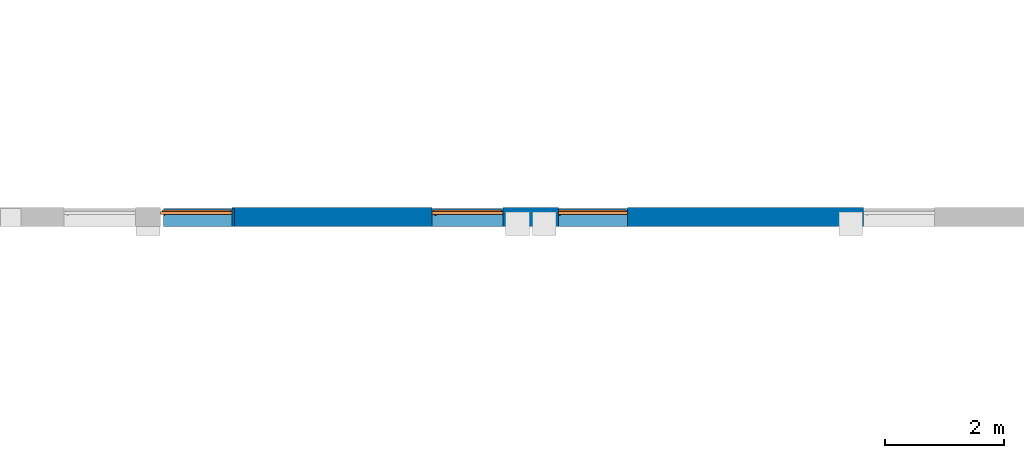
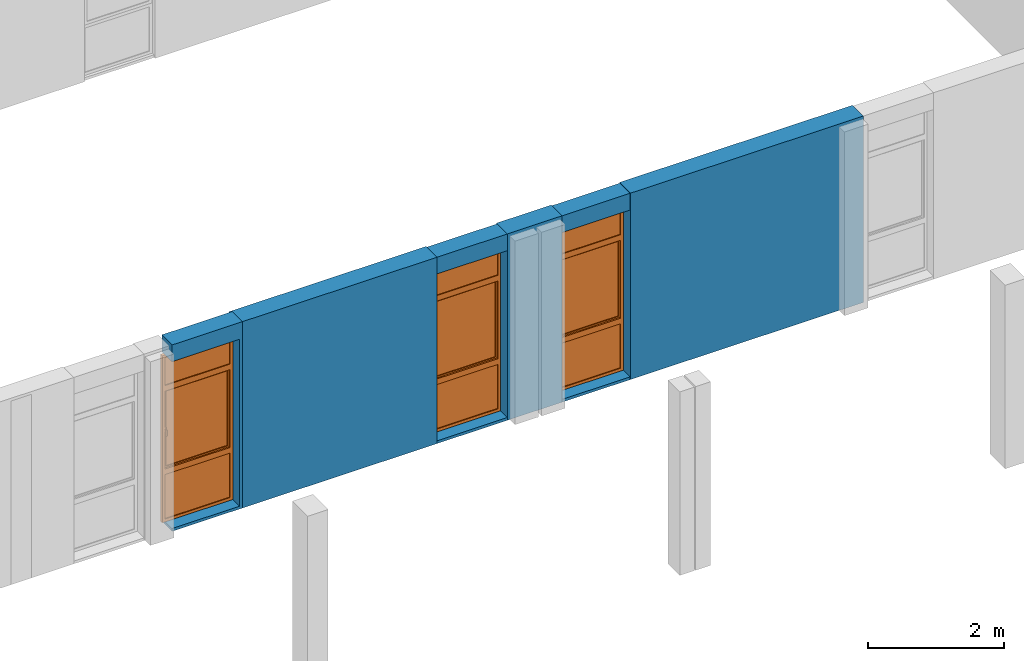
# One storey, part 5 of 11: 6 walls, 3 proxies, 3 openings.
"""IFC2X3 building model written with IfcOpenShell, lengths in millimetres."""

from ifc_helpers import new_model, entity, si_unit, converted_unit, derived_unit, money_unit, direction, frame, origin_with_axes, origin_2d_with_axis, place, context, subcontext, project, spatial, polyline, rectangle, outline, extrude, open_shell, faceted_brep, surface_model, source, transform, mapped, material, layer, layer_set, layer_usage, type_object, element, fill, save


model = new_model("IFC2X3")

# Units and contexts
model_context = context("Model", 3, precision=0.01, world=origin_with_axes(), true_north=direction((0.0, 1.0)))
body_context = subcontext(model_context, "Body", "Model", "MODEL_VIEW")
ifc_project = project(units=[si_unit("LENGTHUNIT", "METRE", prefix="MILLI"), si_unit("AREAUNIT", "SQUARE_METRE"), si_unit("VOLUMEUNIT", "CUBIC_METRE"), converted_unit("PLANEANGLEUNIT", "DEGREE", entity("IfcPlaneAngleMeasure", 0.0174532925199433), si_unit("PLANEANGLEUNIT", "RADIAN"), dimensions=[0, 0, 0, 0, 0, 0, 0]), money_unit("USD"), converted_unit("TIMEUNIT", "Year", entity("IfcTimeMeasure", 31557600.0), si_unit("TIMEUNIT", "SECOND"), dimensions=[0, 0, 1, 0, 0, 0, 0]), si_unit("MASSUNIT", "GRAM", prefix="KILO"), si_unit("THERMODYNAMICTEMPERATUREUNIT", "DEGREE_CELSIUS"), si_unit("LUMINOUSINTENSITYUNIT", "LUMEN"), si_unit("ENERGYUNIT", "JOULE", prefix="MEGA"), derived_unit("THERMALCONDUCTANCEUNIT", [(si_unit("POWERUNIT", "WATT"), 1), (si_unit("LENGTHUNIT", "METRE"), -1), (si_unit("THERMODYNAMICTEMPERATUREUNIT", "KELVIN"), -1)]), derived_unit("SPECIFICHEATCAPACITYUNIT", [(si_unit("ENERGYUNIT", "JOULE"), 1), (si_unit("MASSUNIT", "GRAM", prefix="KILO"), -1), (si_unit("THERMODYNAMICTEMPERATUREUNIT", "KELVIN"), -1)]), derived_unit("MASSDENSITYUNIT", [(si_unit("MASSUNIT", "GRAM", prefix="KILO"), 1), (si_unit("VOLUMEUNIT", "CUBIC_METRE"), -1)])], contexts=[model_context])

# Site, building, storey
site_placement = place(None, origin_with_axes())
site = spatial("IfcSite", under=ifc_project, at=site_placement, Name="Sitio", CompositionType="ELEMENT")
building_placement = place(site_placement, origin_with_axes())
building = spatial("IfcBuilding", under=site, at=building_placement, Name="Construcción", CompositionType="ELEMENT")
storey_placement = place(building_placement, frame((0.0, 0.0, -3650.0), z_axis=(0.0, 0.0, 1.0), x_axis=(1.0, 0.0, 0.0)))
storey = spatial("IfcBuildingStorey", under=building, at=storey_placement, Name="-1. Piso", CompositionType="ELEMENT", Elevation=-3650.0)

# Wall, opening, proxy
ifc_material_1 = material(Name="ARQ_AM246_Arrebossat_De_Guix")
ifc_layer_1 = layer(ifc_material_1, 20.0, ventilated="UNKNOWN")
ifc_material_2 = material(Name="ARQ_CE217_Gero")
ifc_layer_2 = layer(ifc_material_2, 110.0, ventilated="UNKNOWN")
ifc_material_3 = material(Name="ARQ_AI031_Aillament_Poliestireno expandido EPS")
ifc_layer_3 = layer(ifc_material_3, 100.0, ventilated="UNKNOWN")
ifc_material_4 = material(Name="ARQ_CE218_Ceramic")
ifc_layer_4 = layer(ifc_material_4, 50.0, ventilated="UNKNOWN")
ifc_layer_5 = layer(ifc_material_1, 20.0, ventilated="UNKNOWN")
ifc_layer_set_1 = layer_set([ifc_layer_1, ifc_layer_2, ifc_layer_3, ifc_layer_4, ifc_layer_5], Name="façana pati CR3 (ampit)")
ifc_layer_usage_1 = layer_usage(ifc_layer_set_1, "AXIS2", "POSITIVE", -300.0000000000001)
wall_type_1 = type_object("IfcWallType", Name="façana pati CR3 (ampit) 300", PredefinedType="NOTDEFINED")
wall_1_placement = place(storey_placement, frame((-17595.38048777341, -12338.97582371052, 0.0), z_axis=(0.0, 0.0, 1.0), x_axis=(-1.0, 0.0, 0.0)))
wall_1 = element("IfcWallStandardCase", 1, at=wall_1_placement, inside=storey, type_object=wall_type_1, material=ifc_layer_usage_1, Name="MS-201", context=body_context, shape_type="SweptSolid", body=[
    extrude(outline(polyline([(0.0, -300.0000000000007), (1194.999999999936, -300.0000000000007), (1194.999999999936, 0.0), (0.0, 0.0), (0.0, -300.0000000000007)])), origin_with_axes(), (0.0, 0.0, 1.0), 3350.0),
])
opening_1_placement = place(wall_1_placement, frame((645.728517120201, 0.0, 49.99999999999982), z_axis=(0.0, 0.0, 1.0), x_axis=(1.0, 0.0, 0.0)))
opening_1 = element("IfcOpeningElement", 2, at=opening_1_placement, cuts=wall_1, Name="V - 008", context=body_context, shape_type="SweptSolid", body=[
    extrude(rectangle(XDim=1200.000000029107, YDim=3000.0, at=origin_2d_with_axis()), frame((0.0, -250.0, 1500.0), z_axis=(0.0, -1.0, 0.0), x_axis=(-1.0, 0.0, 0.0)), (0.0, 0.0, -1.0), 550.0),
    extrude(rectangle(XDim=1200.000000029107, YDim=3000.0, at=origin_2d_with_axis()), frame((0.0, -250.0, 1500.0), z_axis=(0.0, 1.0, 0.0), x_axis=(-1.0, 0.0, 0.0)), (0.0, 0.0, -1.0), 350.0000000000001),
])
building_element_proxy_type = type_object("IfcBuildingElementProxyType", Name="Ventana Vertical Multi-Faja 27", PredefinedType="NOTDEFINED")
shared_shape = source(origin_with_axes(), body_context, "Body", "SurfaceModel", [
    faceted_brep([(-575.0000000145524, 0.0, 925.0), (-550.0000000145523, 0.0, 925.0), (-550.0000000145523, 0.0, 850.0), (-550.0000000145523, 0.0, 50.00000000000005), (-600.0000000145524, 0.0, 50.00000000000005), (-600.0000000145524, 0.0, 2950.0), (-550.0000000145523, 0.0, 2950.0), (-550.0000000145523, 0.0, 2450.0), (-550.0000000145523, 0.0, 2375.0), (-575.0000000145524, 0.0, 2375.0), (-575.0000000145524, -25.00000000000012, 925.0), (-550.0000000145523, -25.00000000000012, 925.0), (-550.0000000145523, -25.00000000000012, 950.0000000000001), (-550.0000000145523, -50.00000000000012, 950.0000000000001), (-550.0000000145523, -50.00000000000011, 850.0), (-550.0000000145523, -50.00000000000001, 50.00000000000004), (-600.0000000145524, -50.00000000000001, 50.00000000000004), (-600.0000000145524, -50.00000000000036, 2950.0), (-550.0000000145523, -50.00000000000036, 2950.0), (-550.0000000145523, -50.0000000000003, 2450.0), (-550.0000000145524, -25.00000000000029, 2375.0), (-550.0000000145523, -50.00000000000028, 2350.0), (-550.0000000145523, -25.00000000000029, 2350.0), (-575.0000000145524, -25.00000000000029, 2375.0)], [[[0, 1, 2, 3, 4, 5, 6, 7, 8, 9]], [[0, 10, 11, 1]], [[11, 12, 13, 14, 2, 1]], [[3, 2, 14, 15]], [[4, 3, 15, 16]], [[5, 4, 16, 17]], [[6, 5, 17, 18]], [[7, 6, 18, 19]], [[20, 8, 7, 19, 21, 22]], [[20, 23, 9, 8]], [[9, 23, 10, 0]], [[22, 12, 11, 10, 23, 20]], [[22, 21, 13, 12]], [[17, 16, 15, 14, 13, 21, 19, 18]]]),
    faceted_brep([(575.0000000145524, 0.0, 925.0), (575.0000000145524, 0.0, 2375.0), (550.0000000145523, 0.0, 2375.0), (550.0000000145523, 0.0, 2450.0), (550.0000000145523, 0.0, 2950.0), (600.0000000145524, 0.0, 2950.0), (600.0000000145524, 0.0, 50.00000000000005), (550.0000000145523, 0.0, 50.00000000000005), (550.0000000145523, 0.0, 850.0), (550.0000000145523, 0.0, 925.0), (575.0000000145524, -25.00000000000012, 925.0), (575.0000000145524, -25.00000000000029, 2375.0), (550.0000000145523, -25.00000000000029, 2375.0), (550.0000000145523, -25.00000000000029, 2350.0), (550.0000000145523, -50.00000000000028, 2350.0), (550.0000000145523, -50.0000000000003, 2450.0), (550.0000000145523, -50.00000000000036, 2950.0), (600.0000000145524, -50.00000000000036, 2950.0), (600.0000000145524, -50.00000000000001, 50.00000000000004), (550.0000000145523, -50.00000000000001, 50.00000000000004), (550.0000000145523, -50.00000000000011, 850.0), (550.0000000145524, -25.00000000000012, 925.0), (550.0000000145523, -50.00000000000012, 950.0000000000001), (550.0000000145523, -25.00000000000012, 950.0000000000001)], [[[0, 1, 2, 3, 4, 5, 6, 7, 8, 9]], [[0, 10, 11, 1]], [[1, 11, 12, 2]], [[12, 13, 14, 15, 3, 2]], [[4, 3, 15, 16]], [[5, 4, 16, 17]], [[6, 5, 17, 18]], [[7, 6, 18, 19]], [[8, 7, 19, 20]], [[21, 9, 8, 20, 22, 23]], [[9, 21, 10, 0]], [[12, 11, 10, 21, 23, 13]], [[23, 22, 14, 13]], [[14, 22, 20, 19, 18, 17, 16, 15]]]),
    faceted_brep([(-550.0000000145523, -25.00000000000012, 950.0000000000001), (-550.0000000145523, -50.00000000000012, 950.0000000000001), (550.0000000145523, -50.00000000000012, 950.0000000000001), (550.0000000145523, -25.00000000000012, 950.0000000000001), (-550.0000000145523, -25.00000000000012, 925.0), (-550.0000000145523, 0.0, 925.0), (-550.0000000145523, 0.0, 850.0), (-550.0000000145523, -50.00000000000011, 850.0), (550.0000000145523, -50.00000000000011, 850.0), (550.0000000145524, -25.00000000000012, 925.0), (550.0000000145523, 0.0, 850.0), (550.0000000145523, 0.0, 925.0)], [[[0, 1, 2, 3]], [[4, 5, 6, 7, 1, 0]], [[1, 7, 8, 2]], [[9, 3, 2, 8, 10, 11]], [[9, 4, 0, 3]], [[5, 4, 9, 11]], [[11, 10, 6, 5]], [[6, 10, 8, 7]]]),
    faceted_brep([(-550.0000000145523, 0.0, 2375.0), (-550.0000000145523, 0.0, 2450.0), (550.0000000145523, 0.0, 2450.0), (550.0000000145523, 0.0, 2375.0), (-550.0000000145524, -25.00000000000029, 2375.0), (-550.0000000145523, -25.00000000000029, 2350.0), (-550.0000000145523, -50.00000000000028, 2350.0), (-550.0000000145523, -50.0000000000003, 2450.0), (550.0000000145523, -50.0000000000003, 2450.0), (550.0000000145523, -25.00000000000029, 2375.0), (550.0000000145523, -50.00000000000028, 2350.0), (550.0000000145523, -25.00000000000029, 2350.0)], [[[0, 1, 2, 3]], [[4, 5, 6, 7, 1, 0]], [[2, 1, 7, 8]], [[9, 3, 2, 8, 10, 11]], [[9, 4, 0, 3]], [[11, 5, 4, 9]], [[11, 10, 6, 5]], [[7, 6, 10, 8]]]),
    faceted_brep([(550.0000000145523, -50.00000000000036, 2950.0), (550.0000000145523, 0.0, 2950.0), (600.0000000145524, 0.0, 2950.0), (600.0000000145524, -50.00000000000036, 2950.0), (-550.0000000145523, -50.00000000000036, 2950.0), (-550.0000000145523, 0.0, 2950.0), (-600.0000000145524, 0.0, 2950.0), (-600.0000000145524, 0.0, 3000.0), (600.0000000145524, 0.0, 3000.0), (600.0000000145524, -50.00000000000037, 3000.0), (-600.0000000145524, -50.00000000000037, 3000.0), (-600.0000000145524, -50.00000000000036, 2950.0)], [[[0, 1, 2, 3]], [[4, 5, 1, 0]], [[1, 5, 6, 7, 8, 2]], [[3, 2, 8, 9]], [[0, 3, 9, 10, 11, 4]], [[11, 6, 5, 4]], [[10, 7, 6, 11]], [[9, 8, 7, 10]]]),
    faceted_brep([(-550.0000000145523, -50.00000000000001, 50.0), (-550.0000000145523, 0.0, 50.00000000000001), (-600.0000000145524, 0.0, 50.00000000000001), (-600.0000000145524, -50.00000000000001, 50.0), (550.0000000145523, -50.00000000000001, 50.0), (550.0000000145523, 0.0, 50.00000000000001), (600.0000000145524, 0.0, 50.00000000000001), (600.0000000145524, 0.0, 0.0), (-600.0000000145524, 0.0, 0.0), (-600.0000000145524, -50.0, 0.0), (600.0000000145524, -50.0, 0.0), (600.0000000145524, -50.00000000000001, 50.0)], [[[0, 1, 2, 3]], [[4, 5, 1, 0]], [[1, 5, 6, 7, 8, 2]], [[3, 2, 8, 9]], [[0, 3, 9, 10, 11, 4]], [[11, 6, 5, 4]], [[10, 7, 6, 11]], [[9, 8, 7, 10]]]),
    surface_model("IfcShellBasedSurfaceModel", [(-550.0000000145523, -35.0, 49.99999999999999), (550.0000000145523, -35.0, 49.99999999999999), (550.0000000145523, -35.0000000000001, 850.0), (-550.0000000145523, -35.0000000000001, 850.0)], [open_shell([[[0, 1, 2, 3]]])]),
    surface_model("IfcShellBasedSurfaceModel", [(-550.0000000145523, -15.0, 49.99999999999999), (-550.0000000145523, -15.0000000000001, 850.0), (550.0000000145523, -15.0000000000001, 850.0), (550.0000000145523, -15.0, 49.99999999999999)], [open_shell([[[0, 1, 2, 3]]])]),
    faceted_brep([(-521.5000000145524, -25.00000000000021, 1677.0), (-522.839745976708, -25.00000000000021, 1682.0), (-522.839745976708, -37.00000000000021, 1682.0), (-521.5000000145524, -37.00000000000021, 1677.0), (-521.5000000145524, -25.0000000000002, 1623.0), (-522.839745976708, -25.0000000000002, 1618.0), (-526.5000000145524, -25.0000000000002, 1614.339745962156), (-531.5000000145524, -25.0000000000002, 1613.0), (-543.5000000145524, -25.0000000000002, 1613.0), (-548.5000000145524, -25.0000000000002, 1614.339745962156), (-552.1602540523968, -25.0000000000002, 1618.0), (-553.5000000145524, -25.0000000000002, 1623.0), (-553.5000000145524, -25.00000000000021, 1677.0), (-552.1602540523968, -25.00000000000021, 1682.0), (-548.5000000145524, -25.00000000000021, 1685.660254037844), (-543.5000000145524, -25.00000000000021, 1687.0), (-531.5000000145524, -25.00000000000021, 1687.0), (-526.5000000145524, -25.00000000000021, 1685.660254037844), (-526.5000000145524, -37.00000000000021, 1685.660254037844), (-531.5000000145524, -37.00000000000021, 1687.0), (-543.5000000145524, -37.00000000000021, 1687.0), (-548.5000000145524, -37.00000000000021, 1685.660254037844), (-552.1602540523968, -37.00000000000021, 1682.0), (-553.5000000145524, -37.00000000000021, 1677.0), (-553.5000000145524, -37.0000000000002, 1623.0), (-552.1602540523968, -37.0000000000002, 1618.0), (-548.5000000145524, -37.0000000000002, 1614.339745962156), (-543.5000000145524, -37.0000000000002, 1613.0), (-531.5000000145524, -37.0000000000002, 1613.0), (-526.5000000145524, -37.0000000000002, 1614.339745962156), (-522.839745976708, -37.0000000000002, 1618.0), (-521.5000000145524, -37.0000000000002, 1623.0)], [[[0, 1, 2, 3]], [[0, 4, 5, 6, 7, 8, 9, 10, 11, 12, 13, 14, 15, 16, 17, 1]], [[1, 17, 18, 2]], [[3, 2, 18, 19, 20, 21, 22, 23, 24, 25, 26, 27, 28, 29, 30, 31]], [[4, 0, 3, 31]], [[5, 4, 31, 30]], [[6, 5, 30, 29]], [[7, 6, 29, 28]], [[8, 7, 28, 27]], [[9, 8, 27, 26]], [[10, 9, 26, 25]], [[11, 10, 25, 24]], [[12, 11, 24, 23]], [[13, 12, 23, 22]], [[14, 13, 22, 21]], [[15, 14, 21, 20]], [[16, 15, 20, 19]], [[17, 16, 19, 18]]]),
    faceted_brep([(-537.5000000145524, -37.0000000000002, 1663.5), (-544.2500000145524, -37.0000000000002, 1661.69134295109), (-544.2500000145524, -61.00000000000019, 1661.69134295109), (-537.5000000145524, -61.00000000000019, 1663.5), (-530.7500000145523, -37.0000000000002, 1661.69134295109), (-525.8086570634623, -37.0000000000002, 1656.75), (-524.0000000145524, -37.0000000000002, 1650.0), (-525.8086570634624, -37.0000000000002, 1643.25), (-530.7500000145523, -37.0000000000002, 1638.30865704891), (-537.5000000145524, -37.0000000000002, 1636.5), (-544.2500000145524, -37.0000000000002, 1638.30865704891), (-549.1913429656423, -37.0000000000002, 1643.25), (-551.0000000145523, -37.0000000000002, 1650.0), (-549.1913429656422, -37.0000000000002, 1656.75), (-549.1913429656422, -61.00000000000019, 1656.75), (-551.0000000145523, -61.00000000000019, 1650.0), (-549.1913429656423, -61.00000000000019, 1643.25), (-544.2500000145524, -61.00000000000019, 1638.30865704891), (-537.5000000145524, -61.00000000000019, 1636.5), (-530.7500000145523, -61.00000000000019, 1638.30865704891), (-525.8086570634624, -61.00000000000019, 1643.25), (-524.0000000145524, -61.00000000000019, 1650.0), (-525.8086570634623, -61.00000000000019, 1656.75), (-530.7500000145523, -61.00000000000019, 1661.69134295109)], [[[0, 1, 2, 3]], [[0, 4, 5, 6, 7, 8, 9, 10, 11, 12, 13, 1]], [[1, 13, 14, 2]], [[3, 2, 14, 15, 16, 17, 18, 19, 20, 21, 22, 23]], [[4, 0, 3, 23]], [[5, 4, 23, 22]], [[6, 5, 22, 21]], [[7, 6, 21, 20]], [[8, 7, 20, 19]], [[9, 8, 19, 18]], [[10, 9, 18, 17]], [[11, 10, 17, 16]], [[12, 11, 16, 15]], [[13, 12, 15, 14]]]),
    faceted_brep([(-526.0000000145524, -61.00000000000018, 1543.0), (-537.5000000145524, -61.00000000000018, 1540.0), (-549.0000000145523, -61.00000000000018, 1543.0), (-551.0000000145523, -61.00000000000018, 1546.0), (-551.0000000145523, -61.00000000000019, 1650.0), (-549.1913429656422, -61.00000000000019, 1656.75), (-544.2500000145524, -61.00000000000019, 1661.69134295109), (-537.5000000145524, -61.00000000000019, 1663.5), (-530.7500000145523, -61.00000000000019, 1661.69134295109), (-525.8086570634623, -61.00000000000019, 1656.75), (-524.0000000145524, -61.00000000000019, 1650.0), (-524.0000000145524, -61.00000000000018, 1546.0), (-525.9999999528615, -69.00000000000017, 1543.000000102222), (-537.4999999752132, -69.00000000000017, 1539.999999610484), (-548.9999999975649, -69.00000000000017, 1543.000000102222), (-551.0000003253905, -69.00000000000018, 1545.999999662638), (-551.0000003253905, -69.0000000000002, 1649.99999994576), (-549.1913430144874, -69.0000000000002, 1656.749999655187), (-544.2499996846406, -69.0000000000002, 1661.691342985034), (-537.4999999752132, -69.0000000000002, 1663.500000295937), (-530.7500002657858, -69.0000000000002, 1661.691342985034), (-525.808656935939, -69.0000000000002, 1656.749999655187), (-523.9999996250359, -69.0000000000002, 1649.99999994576), (-523.9999996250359, -69.00000000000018, 1545.999999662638), (-527.8625374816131, -71.99999956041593, 1545.61451963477), (-537.4999999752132, -71.99999956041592, 1543.100398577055), (-547.1374624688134, -71.99999956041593, 1545.61451963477), (-548.0000007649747, -71.99999956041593, 1546.908326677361), (-548.0000007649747, -71.99999956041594, 1649.605042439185), (-546.5016170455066, -71.99999956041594, 1655.197085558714), (-542.6970855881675, -71.99999956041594, 1659.001617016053), (-537.4999999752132, -71.99999956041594, 1660.394172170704), (-532.302914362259, -71.99999956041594, 1659.001617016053), (-528.4983829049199, -71.99999956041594, 1655.197085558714), (-526.9999991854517, -71.99999956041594, 1649.605042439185), (-526.9999991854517, -71.99999956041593, 1546.908326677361)], [[[0, 1, 2, 3, 4, 5, 6, 7, 8, 9, 10, 11]], [[1, 0, 12, 13]], [[2, 1, 13, 14]], [[3, 2, 14, 15]], [[4, 3, 15, 16]], [[5, 4, 16, 17]], [[6, 5, 17, 18]], [[7, 6, 18, 19]], [[8, 7, 19, 20]], [[9, 8, 20, 21]], [[10, 9, 21, 22]], [[11, 10, 22, 23]], [[0, 11, 23, 12]], [[13, 12, 24, 25]], [[14, 13, 25, 26]], [[15, 14, 26, 27]], [[16, 15, 27, 28]], [[17, 16, 28, 29]], [[18, 17, 29, 30]], [[19, 18, 30, 31]], [[20, 19, 31, 32]], [[21, 20, 32, 33]], [[22, 21, 33, 34]], [[23, 22, 34, 35]], [[12, 23, 35, 24]], [[26, 25, 24, 35, 34, 33, 32, 31, 30, 29, 28, 27]]]),
    faceted_brep([(-525.0000000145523, -25.00000000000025, 2325.0), (-525.0000000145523, 24.99999999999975, 2325.0), (-575.0000000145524, 24.99999999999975, 2325.0), (-575.0000000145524, -25.00000000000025, 2325.0), (-525.0000000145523, -25.00000000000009, 975.0000000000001), (-525.0000000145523, 24.99999999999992, 975.0000000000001), (-575.0000000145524, 24.99999999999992, 975.0000000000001), (-575.0000000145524, -25.00000000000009, 975.0000000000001)], [[[0, 1, 2, 3]], [[4, 5, 1, 0]], [[1, 5, 6, 2]], [[3, 2, 6, 7]], [[0, 3, 7, 4]], [[7, 6, 5, 4]]]),
    faceted_brep([(525.0000000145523, -25.00000000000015, 975.0000000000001), (525.0000000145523, 24.99999999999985, 975.0000000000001), (575.0000000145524, 24.99999999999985, 975.0000000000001), (575.0000000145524, -25.00000000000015, 975.0000000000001), (525.0000000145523, -25.00000000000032, 2325.0), (525.0000000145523, 24.99999999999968, 2325.0), (575.0000000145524, 24.99999999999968, 2325.0), (575.0000000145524, -25.00000000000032, 2325.0)], [[[0, 1, 2, 3]], [[4, 5, 1, 0]], [[1, 5, 6, 2]], [[3, 2, 6, 7]], [[0, 3, 7, 4]], [[7, 6, 5, 4]]]),
    faceted_brep([(575.0000000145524, -25.00000000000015, 925.0), (575.0000000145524, 24.99999999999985, 925.0), (575.0000000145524, 24.99999999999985, 975.0000000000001), (575.0000000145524, -25.00000000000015, 975.0000000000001), (-575.0000000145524, -25.00000000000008, 925.0), (-575.0000000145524, 24.99999999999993, 925.0), (-575.0000000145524, 24.99999999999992, 975.0000000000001), (-525.0000000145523, 24.99999999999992, 975.0000000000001), (525.0000000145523, 24.99999999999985, 975.0000000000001), (525.0000000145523, -25.00000000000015, 975.0000000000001), (-525.0000000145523, -25.00000000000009, 975.0000000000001), (-575.0000000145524, -25.00000000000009, 975.0000000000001)], [[[0, 1, 2, 3]], [[4, 5, 1, 0]], [[1, 5, 6, 7, 8, 2]], [[3, 2, 8, 9]], [[0, 3, 9, 10, 11, 4]], [[11, 6, 5, 4]], [[10, 7, 6, 11]], [[9, 8, 7, 10]]]),
    faceted_brep([(-575.0000000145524, -25.00000000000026, 2375.0), (-575.0000000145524, 24.99999999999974, 2375.0), (-575.0000000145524, 24.99999999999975, 2325.0), (-575.0000000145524, -25.00000000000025, 2325.0), (575.0000000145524, -25.00000000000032, 2375.0), (575.0000000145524, 24.99999999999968, 2375.0), (575.0000000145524, 24.99999999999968, 2325.0), (525.0000000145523, 24.99999999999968, 2325.0), (-525.0000000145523, 24.99999999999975, 2325.0), (-525.0000000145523, -25.00000000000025, 2325.0), (525.0000000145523, -25.00000000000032, 2325.0), (575.0000000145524, -25.00000000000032, 2325.0)], [[[0, 1, 2, 3]], [[4, 5, 1, 0]], [[1, 5, 6, 7, 8, 2]], [[3, 2, 8, 9]], [[0, 3, 9, 10, 11, 4]], [[11, 6, 5, 4]], [[10, 7, 6, 11]], [[9, 8, 7, 10]]]),
    surface_model("IfcShellBasedSurfaceModel", [(-525.0000000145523, -10.00000000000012, 975.0000000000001), (525.0000000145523, -10.00000000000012, 975.0000000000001), (525.0000000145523, -10.00000000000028, 2325.0), (-525.0000000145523, -10.00000000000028, 2325.0)], [open_shell([[[0, 1, 2, 3]]])]),
    surface_model("IfcShellBasedSurfaceModel", [(-525.0000000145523, 9.999999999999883, 975.0000000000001), (-525.0000000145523, 9.99999999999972, 2325.0), (525.0000000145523, 9.99999999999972, 2325.0), (525.0000000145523, 9.999999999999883, 975.0000000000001)], [open_shell([[[0, 1, 2, 3]]])]),
    surface_model("IfcShellBasedSurfaceModel", [(-550.0000000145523, -35.0000000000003, 2450.0), (550.0000000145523, -35.0000000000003, 2450.0), (550.0000000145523, -35.00000000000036, 2950.0), (-550.0000000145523, -35.00000000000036, 2950.0)], [open_shell([[[0, 1, 2, 3]]])]),
    surface_model("IfcShellBasedSurfaceModel", [(-550.0000000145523, -15.0000000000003, 2450.0), (-550.0000000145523, -15.00000000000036, 2950.0), (550.0000000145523, -15.00000000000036, 2950.0), (550.0000000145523, -15.0000000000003, 2450.0)], [open_shell([[[0, 1, 2, 3]]])]),
])
proxy_1_placement = place(opening_1_placement, frame((600.0000000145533, 0.0, 0.0), z_axis=(0.0, 0.0, 1.0), x_axis=(-1.0, 0.0, 0.0)))
proxy_1 = element("IfcBuildingElementProxy", 3, at=proxy_1_placement, inside=storey, type_object=building_element_proxy_type, Name="V - 008", context=body_context, shape_type="MappedRepresentation", body=[
    mapped(shared_shape, transform((600.0000000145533, 250.0, 0.0))),
])
fill(opening_1, proxy_1)

ifc_layer_usage_2 = layer_usage(ifc_layer_set_1, "AXIS2", "POSITIVE", -300.0000000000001)
wall_2_placement = place(storey_placement, frame((-11002.41799369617, -12338.97582371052, 0.0), z_axis=(0.0, 0.0, 1.0), x_axis=(-1.0, 0.0, 0.0)))
wall_2 = element("IfcWallStandardCase", 4, at=wall_2_placement, inside=storey, type_object=wall_type_1, material=ifc_layer_usage_2, Name="MS-201", context=body_context, shape_type="SweptSolid", body=[
    extrude(outline(polyline([(0.0, -300.0000000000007), (1194.999999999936, -300.0000000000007), (1194.999999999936, 0.0), (0.0, 0.0), (0.0, -300.0000000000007)])), origin_with_axes(), (0.0, 0.0, 1.0), 3350.0),
])
opening_2_placement = place(wall_2_placement, frame((594.9999999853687, 0.0, 49.99999999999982), z_axis=(0.0, 0.0, 1.0), x_axis=(1.0, 0.0, 0.0)))
opening_2 = element("IfcOpeningElement", 5, at=opening_2_placement, cuts=wall_2, Name="V - 008", context=body_context, shape_type="SweptSolid", body=[
    extrude(rectangle(XDim=1200.000000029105, YDim=3000.0, at=origin_2d_with_axis()), frame((0.0, -250.0, 1500.0), z_axis=(0.0, -1.0, 0.0), x_axis=(-1.0, 0.0, 0.0)), (0.0, 0.0, -1.0), 550.0),
    extrude(rectangle(XDim=1200.000000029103, YDim=3000.0, at=origin_2d_with_axis()), frame((0.0, -250.0, 1500.0), z_axis=(0.0, 1.0, 0.0), x_axis=(-1.0, 0.0, 0.0)), (0.0, 0.0, -1.0), 350.0000000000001),
])
proxy_2_placement = place(opening_2_placement, frame((600.0000000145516, 0.0, 0.0), z_axis=(0.0, 0.0, 1.0), x_axis=(-1.0, 0.0, 0.0)))
proxy_2 = element("IfcBuildingElementProxy", 6, at=proxy_2_placement, inside=storey, type_object=building_element_proxy_type, Name="V - 008", context=body_context, shape_type="MappedRepresentation", body=[
    mapped(shared_shape, transform((600.0000000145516, 250.0, 0.0))),
])
fill(opening_2, proxy_2)

ifc_layer_usage_3 = layer_usage(ifc_layer_set_1, "AXIS2", "POSITIVE", -300.0000000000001)
wall_3_placement = place(storey_placement, frame((-13091.10900490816, -12338.97582371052, 0.0), z_axis=(0.0, 0.0, 1.0), x_axis=(-1.0, 0.0, 0.0)))
wall_3 = element("IfcWallStandardCase", 7, at=wall_3_placement, inside=storey, type_object=wall_type_1, material=ifc_layer_usage_3, Name="MS-201", context=body_context, shape_type="SweptSolid", body=[
    extrude(outline(polyline([(0.0, -300.0000000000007), (1194.999999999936, -300.0000000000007), (1194.999999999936, 0.0), (0.0, 0.0), (0.0, -300.0000000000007)])), origin_with_axes(), (0.0, 0.0, 1.0), 3350.0),
])
opening_3_placement = place(wall_3_placement, frame((594.9999999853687, 0.0, 49.99999999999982), z_axis=(0.0, 0.0, 1.0), x_axis=(1.0, 0.0, 0.0)))
opening_3 = element("IfcOpeningElement", 8, at=opening_3_placement, cuts=wall_3, Name="V - 008", context=body_context, shape_type="SweptSolid", body=[
    extrude(rectangle(XDim=1200.000000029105, YDim=3000.0, at=origin_2d_with_axis()), frame((0.0, -250.0, 1500.0), z_axis=(0.0, -1.0, 0.0), x_axis=(-1.0, 0.0, 0.0)), (0.0, 0.0, -1.0), 550.0),
    extrude(rectangle(XDim=1200.000000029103, YDim=3000.0, at=origin_2d_with_axis()), frame((0.0, -250.0, 1500.0), z_axis=(0.0, 1.0, 0.0), x_axis=(-1.0, 0.0, 0.0)), (0.0, 0.0, -1.0), 350.0000000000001),
])
proxy_3_placement = place(opening_3_placement, frame((600.0000000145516, 0.0, 0.0), z_axis=(0.0, 0.0, 1.0), x_axis=(-1.0, 0.0, 0.0)))
proxy_3 = element("IfcBuildingElementProxy", 9, at=proxy_3_placement, inside=storey, type_object=building_element_proxy_type, Name="V - 008", context=body_context, shape_type="MappedRepresentation", body=[
    mapped(shared_shape, transform((600.0000000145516, 250.0, 0.0))),
])
fill(opening_3, proxy_3)

# Walls
ifc_layer_6 = layer(ifc_material_2, 150.0, ventilated="UNKNOWN")
ifc_layer_7 = layer(ifc_material_3, 100.0, ventilated="UNKNOWN")
ifc_layer_8 = layer(ifc_material_4, 50.0, ventilated="UNKNOWN")
ifc_layer_9 = layer(ifc_material_1, 20.0, ventilated="UNKNOWN")
ifc_layer_set_2 = layer_set([ifc_layer_6, ifc_layer_7, ifc_layer_8, ifc_layer_9], Name="façana pati CR3")
ifc_layer_usage_4 = layer_usage(ifc_layer_set_2, "AXIS2", "POSITIVE", -320.0)
wall_type_2 = type_object("IfcWallType", Name="façana pati CR3 320", PredefinedType="NOTDEFINED")
wall_4_placement = place(storey_placement, frame((-7036.109004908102, -12338.97582371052, 0.0), z_axis=(0.0, 0.0, 1.0), x_axis=(-1.0, 0.0, 0.0)))
element("IfcWallStandardCase", 10, at=wall_4_placement, inside=storey, type_object=wall_type_2, material=ifc_layer_usage_4, Name="MS-201", context=body_context, shape_type="SweptSolid", body=[
    extrude(outline(polyline([(0.0, -320.0000000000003), (3961.308988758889, -320.0000000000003), (3961.308988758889, 0.0), (0.0, 0.0), (0.0, -320.0000000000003)])), origin_with_axes(), (0.0, 0.0, 1.0), 3350.0),
])
ifc_layer_usage_5 = layer_usage(ifc_layer_set_2, "AXIS2", "POSITIVE", -320.0)
wall_5_placement = place(storey_placement, frame((-12161.1090049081, -12338.97582371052, 0.0), z_axis=(0.0, 0.0, 1.0), x_axis=(-1.0, 0.0, 0.0)))
element("IfcWallStandardCase", 11, at=wall_5_placement, inside=storey, type_object=wall_type_2, material=ifc_layer_usage_5, Name="MS-201", context=body_context, shape_type="SweptSolid", body=[
    extrude(outline(polyline([(0.0, -320.0000000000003), (930.0000000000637, -320.0000000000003), (930.0000000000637, 0.0), (0.0, 0.0), (0.0, -320.0000000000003)])), origin_with_axes(), (0.0, 0.0, 1.0), 3350.0),
])
ifc_layer_usage_6 = layer_usage(ifc_layer_set_2, "AXIS2", "POSITIVE", -320.0)
wall_6_placement = place(storey_placement, frame((-14286.1090049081, -12338.97582371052, 0.0), z_axis=(0.0, 0.0, 1.0), x_axis=(-1.0, 0.0, 0.0)))
element("IfcWallStandardCase", 12, at=wall_6_placement, inside=storey, type_object=wall_type_2, material=ifc_layer_usage_6, Name="MS-201", context=body_context, shape_type="SweptSolid", body=[
    extrude(outline(polyline([(0.0, -320.0000000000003), (3355.000000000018, -320.0000000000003), (3355.000000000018, 0.0), (0.0, 0.0), (0.0, -320.0000000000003)])), origin_with_axes(), (0.0, 0.0, 1.0), 3350.0),
])

save(model, "model.ifc")
